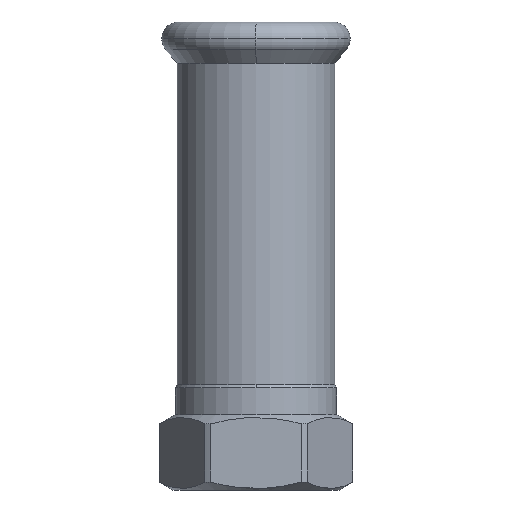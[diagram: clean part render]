
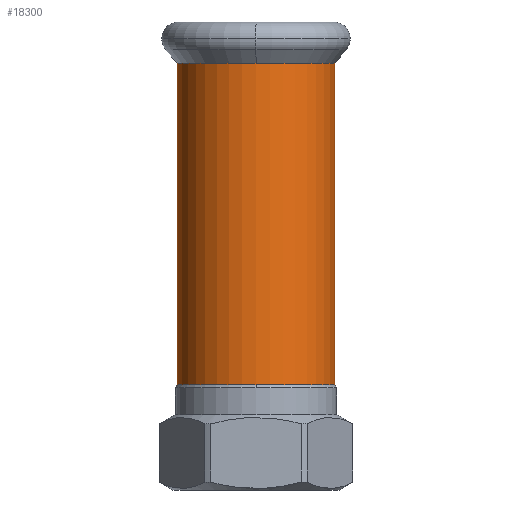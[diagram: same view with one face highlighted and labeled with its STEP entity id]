
A CAD part, left-side view. The second image highlights one B-rep face of the part: STEP entity #18300.
In plain terms, the highlighted cylindrical face has radius 15.65 mm (diameter 31.3 mm), a partial arc.
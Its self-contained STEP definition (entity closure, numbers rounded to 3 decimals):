
#60=CARTESIAN_POINT('',(49.067,47.456,-4.087));
#70=DIRECTION('',(0.,0.,-1.));
#80=DIRECTION('',(-1.,0.,0.));
#90=AXIS2_PLACEMENT_3D('',#60,#70,#80);
#100=CIRCLE('',#90,15.65);
#130=CARTESIAN_POINT('',(49.067,31.806,-4.087));
#140=VERTEX_POINT('',#130);
#420=CARTESIAN_POINT('',(33.417,47.456,-4.087));
#430=VERTEX_POINT('',#420);
#460=EDGE_CURVE('',#140,#430,#100,.T.);
#880=CARTESIAN_POINT('',(49.067,63.106,-4.087));
#890=VERTEX_POINT('',#880);
#920=EDGE_CURVE('',#430,#890,#100,.T.);
#17940=CARTESIAN_POINT('',(49.067,47.456,26.93));
#17950=DIRECTION('',(0.,0.,-1.));
#17960=DIRECTION('',(0.,-1.,0.));
#17970=AXIS2_PLACEMENT_3D('',#17940,#17950,#17960);
#17980=CYLINDRICAL_SURFACE('',#17970,15.65);
#17990=CARTESIAN_POINT('',(49.067,47.456,59.764));
#18000=DIRECTION('',(0.,0.,1.));
#18010=DIRECTION('',(-1.,0.,0.));
#18020=AXIS2_PLACEMENT_3D('',#17990,#18000,#18010);
#18030=CIRCLE('',#18020,15.65);
#18040=CARTESIAN_POINT('',(33.417,47.456,59.764));
#18050=VERTEX_POINT('',#18040);
#18060=CARTESIAN_POINT('',(49.067,31.806,59.764));
#18070=VERTEX_POINT('',#18060);
#18080=EDGE_CURVE('',#18050,#18070,#18030,.T.);
#18090=ORIENTED_EDGE('',*,*,#18080,.F.);
#18100=CARTESIAN_POINT('',(49.067,31.806,26.93));
#18110=DIRECTION('',(0.,0.,-1.));
#18120=VECTOR('',#18110,1.);
#18130=LINE('',#18100,#18120);
#18140=EDGE_CURVE('',#18070,#140,#18130,.T.);
#18150=ORIENTED_EDGE('',*,*,#18140,.F.);
#18160=ORIENTED_EDGE('',*,*,#460,.F.);
#18170=ORIENTED_EDGE('',*,*,#920,.F.);
#18180=CARTESIAN_POINT('',(49.067,63.106,26.93));
#18190=DIRECTION('',(0.,0.,-1.));
#18200=VECTOR('',#18190,1.);
#18210=LINE('',#18180,#18200);
#18220=CARTESIAN_POINT('',(49.067,63.106,59.764));
#18230=VERTEX_POINT('',#18220);
#18240=EDGE_CURVE('',#18230,#890,#18210,.T.);
#18250=ORIENTED_EDGE('',*,*,#18240,.T.);
#18260=EDGE_CURVE('',#18230,#18050,#18030,.T.);
#18270=ORIENTED_EDGE('',*,*,#18260,.F.);
#18280=EDGE_LOOP('',(#18270,#18250,#18170,#18160,#18150,#18090));
#18290=FACE_OUTER_BOUND('',#18280,.T.);
#18300=ADVANCED_FACE('',(#18290),#17980,.T.);
